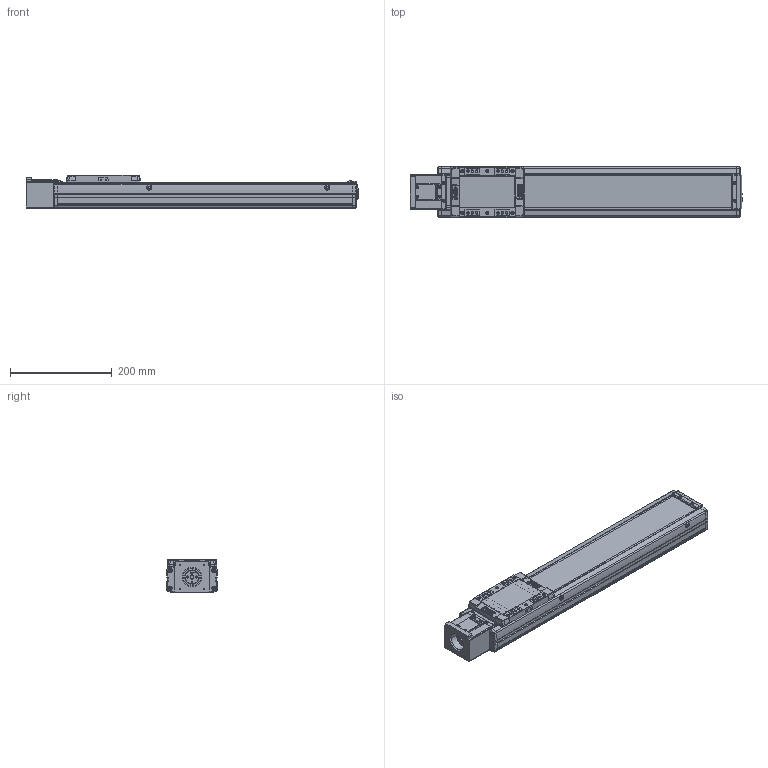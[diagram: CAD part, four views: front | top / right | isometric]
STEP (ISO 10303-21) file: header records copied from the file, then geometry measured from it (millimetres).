
FILE_DESCRIPTION(('STEP AP214'),'1');
FILE_NAME('Z:/Web/3D/SAN100/SAN100 양산용 (STEP)/SAN100ㅁㅁ-400S.stp','2013-04-25T07:24:43',(' '),(' '),'Spatial InterOp 3D',' ',' ');
FILE_SCHEMA(('automotive_design'));
Length unit declared in the file: millimetre
Products named in the file (40): MTHZ-SAN100-S56A; SDA26C-8-6.35; SSFX-SAN65; CPLCV-SAN65; M3.0 x 6.0; 스크루 : Round - M4.0 x 10.0; FRCV-SAN100; SUS COVER; SFX-SAN100; RRCV-SAN100; 스크루 : Round - M3.0 x 6.0; FRBL-SAN100; SLBL-SAN100; SLCV-SAN100; 스크루 : Countersunk - M3.0 x 6.0; BASE; 스크루 : Round - M5.0 x 6.0
Bounding box: 652.5 x 100 x 66 mm (x, y, z)
Volume: 1861375.5 mm3; surface area: 473127.4 mm2
Topology: 40 solids, 41 shells, 2412 faces, 6358 edges, 4111 vertices
Faces by surface type: plane 1141, cylinder 937, cone 217, sphere 52, torus 45, bspline 20
Entity records: 96710 total; most frequent: CARTESIAN_POINT 15311, DIRECTION 13454, ORIENTED_EDGE 12544, EDGE_CURVE 6272, AXIS2_PLACEMENT_3D 4929, VERTEX_POINT 4111, LINE 3596, VECTOR 3596
